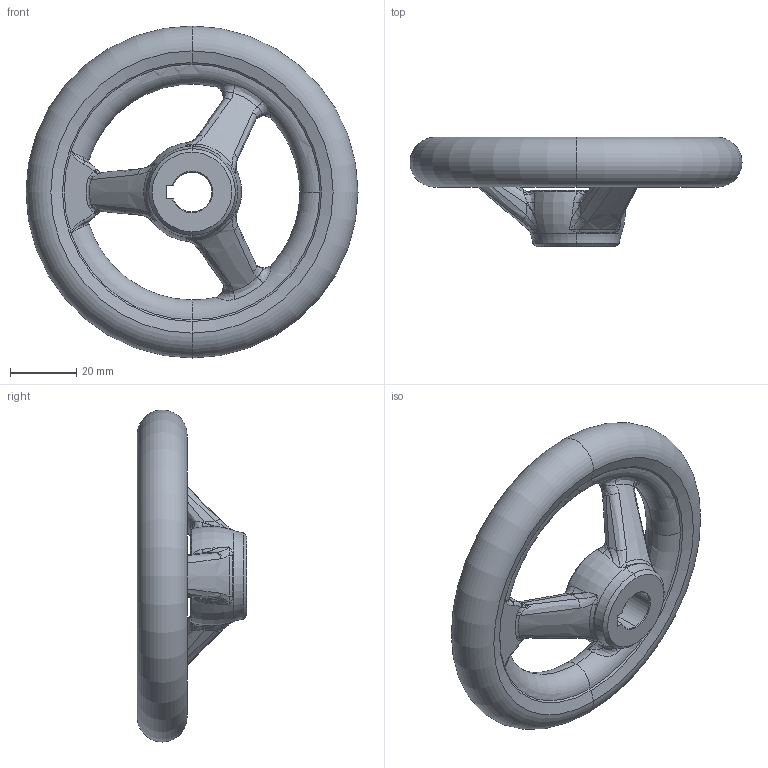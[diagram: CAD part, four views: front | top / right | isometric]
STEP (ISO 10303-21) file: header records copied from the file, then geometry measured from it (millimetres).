
FILE_DESCRIPTION (( 'STEP AP203' ), '1' );
FILE_NAME ('din950_a3_100x12.step', '2010-03-23T09:46:40', ( '_' ), ( '_' ), 'SwSTEP 2.0', 'SolidWorks 2010', '' );
FILE_SCHEMA (( 'CONFIG_CONTROL_DESIGN' ));
Length unit declared in the file: millimetre
Products named in the file (1): din950_a3_100x12
Bounding box: 100 x 33 x 100 mm (x, y, z)
Volume: 67815 mm3; surface area: 18277.5 mm2
Topology: 1 solids, 1 shells, 198 faces, 485 edges, 261 vertices
Faces by surface type: bspline 130, torus 21, cone 18, plane 13, sphere 8, cylinder 8
Entity records: 23035 total; most frequent: CARTESIAN_POINT 19196, ORIENTED_EDGE 926, DIRECTION 558, EDGE_CURVE 463, AXIS2_PLACEMENT_3D 263, VERTEX_POINT 261, B_SPLINE_CURVE_WITH_KNOTS 233, EDGE_LOOP 200
